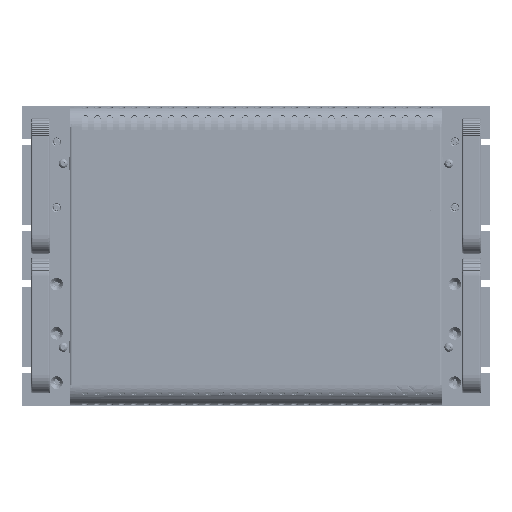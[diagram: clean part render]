
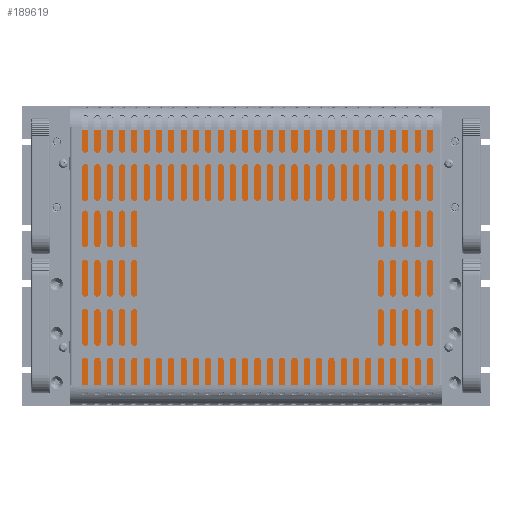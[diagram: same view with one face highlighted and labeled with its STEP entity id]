
A CAD part, top view. The second image highlights one B-rep face of the part: STEP entity #189619.
In plain terms, the highlighted planar face has unit normal (0, 0, 1) as drawn and (0, 0, -1) by its records, which use the part's own axes.
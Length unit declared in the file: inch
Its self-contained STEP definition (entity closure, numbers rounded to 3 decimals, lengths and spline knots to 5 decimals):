
#2992 = CARTESIAN_POINT ( 'NONE',  ( 4.875, -1.62748, 0. ) ) ;
#9700 = DIRECTION ( 'NONE',  ( -1., 0., 0. ) ) ;
#15893 = ORIENTED_EDGE ( 'NONE', *, *, #165889, .T. ) ;
#17160 = VERTEX_POINT ( 'NONE', #133824 ) ;
#18023 = EDGE_CURVE ( 'NONE', #98964, #96927, #216746, .T. ) ;
#27379 = AXIS2_PLACEMENT_3D ( 'NONE', #62759, #163838, #162193 ) ;
#30243 = VERTEX_POINT ( 'NONE', #137749 ) ;
#31789 = ORIENTED_EDGE ( 'NONE', *, *, #185104, .T. ) ;
#36710 = FACE_BOUND ( 'NONE', #257635, .T. ) ;
#46644 = VECTOR ( 'NONE', #135525, 39.37008 ) ;
#49389 = CARTESIAN_POINT ( 'NONE',  ( 7.625, 6., 0. ) ) ;
#62759 = CARTESIAN_POINT ( 'NONE',  ( -7.25, 6., 0. ) ) ;
#63190 = VECTOR ( 'NONE', #169351, 39.37008 ) ;
#65237 = ORIENTED_EDGE ( 'NONE', *, *, #194058, .T. ) ;
#69821 = CARTESIAN_POINT ( 'NONE',  ( -7.25, 5.25, 0. ) ) ;
#76761 = VECTOR ( 'NONE', #148844, 39.37008 ) ;
#79033 = CARTESIAN_POINT ( 'NONE',  ( -4.5, -1.62748, 0. ) ) ;
#96927 = VERTEX_POINT ( 'NONE', #186675 ) ;
#97772 = LINE ( 'NONE', #315163, #308849 ) ;
#97985 = VECTOR ( 'NONE', #170382, 39.37008 ) ;
#98693 = VECTOR ( 'NONE', #9700, 39.37008 ) ;
#98964 = VERTEX_POINT ( 'NONE', #2992 ) ;
#105052 = EDGE_CURVE ( 'NONE', #17160, #30243, #123565, .T. ) ;
#123565 = LINE ( 'NONE', #69821, #264454 ) ;
#124379 = LINE ( 'NONE', #49389, #76761 ) ;
#127335 = EDGE_CURVE ( 'NONE', #30243, #158936, #124379, .T. ) ;
#129195 = EDGE_CURVE ( 'NONE', #306264, #289427, #308815, .T. ) ;
#133824 = CARTESIAN_POINT ( 'NONE',  ( -7.25, 5.25, 0. ) ) ;
#134492 = DIRECTION ( 'NONE',  ( 1., 0., 0. ) ) ;
#135525 = DIRECTION ( 'NONE',  ( 0., -1., 0. ) ) ;
#137749 = CARTESIAN_POINT ( 'NONE',  ( 7.625, 5.25, 0. ) ) ;
#139603 = ORIENTED_EDGE ( 'NONE', *, *, #105052, .T. ) ;
#147463 = CARTESIAN_POINT ( 'NONE',  ( 4.875, 3.75, 0. ) ) ;
#148844 = DIRECTION ( 'NONE',  ( 0., -1., 0. ) ) ;
#154316 = EDGE_CURVE ( 'NONE', #289427, #98964, #252262, .T. ) ;
#158936 = VERTEX_POINT ( 'NONE', #200175 ) ;
#162193 = DIRECTION ( 'NONE',  ( -1., 0., 0. ) ) ;
#163838 = DIRECTION ( 'NONE',  ( 0., 0., -1. ) ) ;
#165889 = EDGE_CURVE ( 'NONE', #319203, #17160, #97772, .T. ) ;
#167719 = CARTESIAN_POINT ( 'NONE',  ( 4.875, -1.62748, 0. ) ) ;
#169351 = DIRECTION ( 'NONE',  ( 0., 1., 0. ) ) ;
#170382 = DIRECTION ( 'NONE',  ( -1., 0., 0. ) ) ;
#185104 = EDGE_CURVE ( 'NONE', #158936, #319203, #202301, .T. ) ;
#186675 = CARTESIAN_POINT ( 'NONE',  ( 4.875, 3.75, 0. ) ) ;
#189619 = ADVANCED_FACE ( 'NONE', ( #286469, #36710 ), #189940, .T. ) ;
#189940 = PLANE ( 'NONE',  #27379 ) ;
#191989 = ORIENTED_EDGE ( 'NONE', *, *, #129195, .T. ) ;
#194058 = EDGE_CURVE ( 'NONE', #96927, #306264, #291392, .T. ) ;
#200101 = ORIENTED_EDGE ( 'NONE', *, *, #154316, .T. ) ;
#200175 = CARTESIAN_POINT ( 'NONE',  ( 7.625, -5.125, 0. ) ) ;
#201308 = CARTESIAN_POINT ( 'NONE',  ( -4.5, 3.75, 0. ) ) ;
#202301 = LINE ( 'NONE', #207161, #98693 ) ;
#206430 = CARTESIAN_POINT ( 'NONE',  ( -4.5, -1.62748, 0. ) ) ;
#207161 = CARTESIAN_POINT ( 'NONE',  ( -7.25, -5.125, 0. ) ) ;
#214406 = ORIENTED_EDGE ( 'NONE', *, *, #18023, .T. ) ;
#216746 = LINE ( 'NONE', #167719, #63190 ) ;
#221794 = DIRECTION ( 'NONE',  ( 0., 1., 0. ) ) ;
#238339 = CARTESIAN_POINT ( 'NONE',  ( -4.5, 3.75, 0. ) ) ;
#252262 = LINE ( 'NONE', #206430, #300273 ) ;
#257635 = EDGE_LOOP ( 'NONE', ( #65237, #191989, #200101, #214406 ) ) ;
#262816 = ORIENTED_EDGE ( 'NONE', *, *, #127335, .T. ) ;
#264454 = VECTOR ( 'NONE', #291944, 39.37008 ) ;
#286469 = FACE_OUTER_BOUND ( 'NONE', #318132, .T. ) ;
#289427 = VERTEX_POINT ( 'NONE', #79033 ) ;
#291392 = LINE ( 'NONE', #147463, #97985 ) ;
#291944 = DIRECTION ( 'NONE',  ( 1., 0., 0. ) ) ;
#300273 = VECTOR ( 'NONE', #134492, 39.37008 ) ;
#306264 = VERTEX_POINT ( 'NONE', #201308 ) ;
#308815 = LINE ( 'NONE', #238339, #46644 ) ;
#308849 = VECTOR ( 'NONE', #221794, 39.37008 ) ;
#314799 = CARTESIAN_POINT ( 'NONE',  ( -7.25, -5.125, 0. ) ) ;
#315163 = CARTESIAN_POINT ( 'NONE',  ( -7.25, -5.875, 0. ) ) ;
#318132 = EDGE_LOOP ( 'NONE', ( #262816, #31789, #15893, #139603 ) ) ;
#319203 = VERTEX_POINT ( 'NONE', #314799 ) ;
